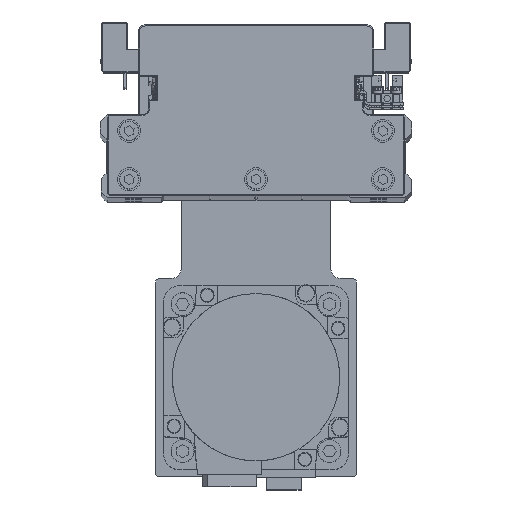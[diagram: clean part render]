
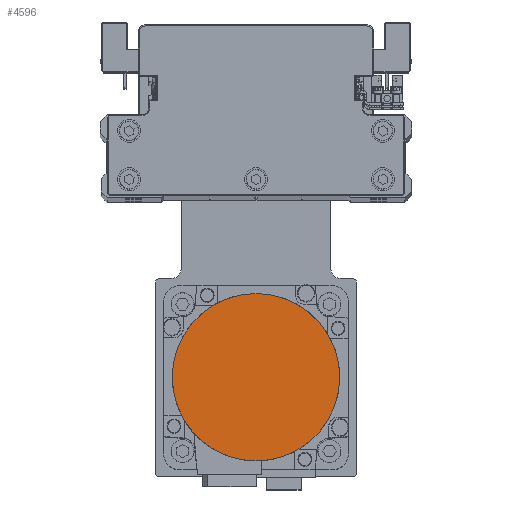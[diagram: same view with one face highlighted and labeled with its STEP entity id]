
A CAD part, top view. The second image highlights one B-rep face of the part: STEP entity #4596.
In plain terms, the highlighted planar face has unit normal (0, 0, 1) as drawn and (0, 0, -1) by its records, which use the part's own axes.
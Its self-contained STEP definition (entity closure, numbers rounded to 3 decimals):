
#643 = CARTESIAN_POINT ( 'NONE',  ( 0., 36.3, -122.2 ) ) ;
#4353 = DIRECTION ( 'NONE',  ( 0., -1., 0. ) ) ;
#4596 = ADVANCED_FACE ( 'NONE', ( #36381 ), #8240, .F. ) ;
#4838 = AXIS2_PLACEMENT_3D ( 'NONE', #19959, #32490, #4353 ) ;
#5158 = DIRECTION ( 'NONE',  ( 1., 0., 0. ) ) ;
#7425 = DIRECTION ( 'NONE',  ( 0., 1., 0. ) ) ;
#8240 = PLANE ( 'NONE',  #29884 ) ;
#9637 = EDGE_LOOP ( 'NONE', ( #15264, #35681 ) ) ;
#11212 = VERTEX_POINT ( 'NONE', #31224 ) ;
#11225 = CIRCLE ( 'NONE', #34187, 36.3 ) ;
#14979 = VERTEX_POINT ( 'NONE', #643 ) ;
#15264 = ORIENTED_EDGE ( 'NONE', *, *, #24542, .F. ) ;
#19959 = CARTESIAN_POINT ( 'NONE',  ( 0., 0., -122.2 ) ) ;
#20746 = CARTESIAN_POINT ( 'NONE',  ( 0., 0., -122.2 ) ) ;
#22533 = CIRCLE ( 'NONE', #4838, 36.3 ) ;
#23043 = CARTESIAN_POINT ( 'NONE',  ( 0., 0., -122.2 ) ) ;
#24542 = EDGE_CURVE ( 'NONE', #14979, #11212, #11225, .T. ) ;
#29155 = EDGE_CURVE ( 'NONE', #11212, #14979, #22533, .T. ) ;
#29884 = AXIS2_PLACEMENT_3D ( 'NONE', #20746, #33281, #5158 ) ;
#31224 = CARTESIAN_POINT ( 'NONE',  ( 0., -36.3, -122.2 ) ) ;
#32490 = DIRECTION ( 'NONE',  ( 0., 0., 1. ) ) ;
#33281 = DIRECTION ( 'NONE',  ( 0., 0., 1. ) ) ;
#34187 = AXIS2_PLACEMENT_3D ( 'NONE', #23043, #35581, #7425 ) ;
#35581 = DIRECTION ( 'NONE',  ( 0., 0., 1. ) ) ;
#35681 = ORIENTED_EDGE ( 'NONE', *, *, #29155, .F. ) ;
#36381 = FACE_OUTER_BOUND ( 'NONE', #9637, .T. ) ;
